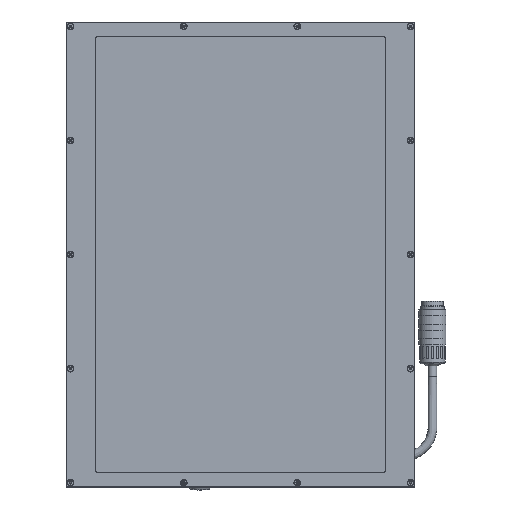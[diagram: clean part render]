
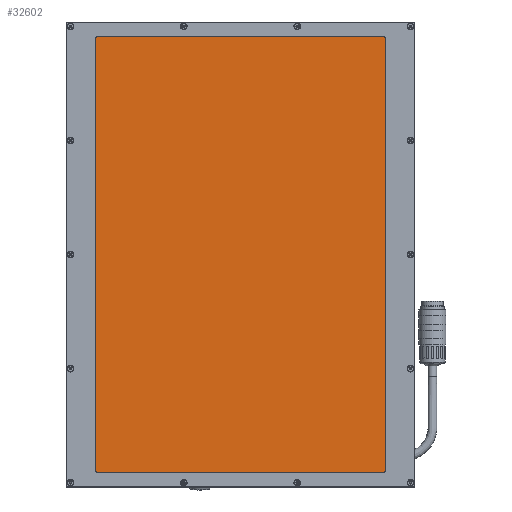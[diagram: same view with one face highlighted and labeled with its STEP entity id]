
A CAD part, top view. The second image highlights one B-rep face of the part: STEP entity #32602.
In plain terms, the highlighted planar face has unit normal (0, 0, 1).
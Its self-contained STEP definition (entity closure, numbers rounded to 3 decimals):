
#2541=LINE('',#55214,#4274);
#2547=LINE('',#55228,#4280);
#2549=LINE('',#55232,#4282);
#2553=LINE('',#55241,#4286);
#4274=VECTOR('',#40906,1000.);
#4280=VECTOR('',#40914,1000.);
#4282=VECTOR('',#40918,1000.);
#4286=VECTOR('',#40924,1000.);
#11260=ORIENTED_EDGE('',*,*,#14446,.T.);
#11261=ORIENTED_EDGE('',*,*,#14456,.T.);
#11262=ORIENTED_EDGE('',*,*,#14448,.T.);
#11263=ORIENTED_EDGE('',*,*,#14457,.T.);
#11264=ORIENTED_EDGE('',*,*,#14452,.T.);
#11265=ORIENTED_EDGE('',*,*,#14458,.T.);
#11266=ORIENTED_EDGE('',*,*,#14440,.T.);
#11267=ORIENTED_EDGE('',*,*,#14459,.T.);
#14440=EDGE_CURVE('',#16681,#16682,#2541,.T.);
#14446=EDGE_CURVE('',#16688,#16687,#2547,.T.);
#14448=EDGE_CURVE('',#16689,#16690,#2549,.T.);
#14452=EDGE_CURVE('',#16693,#16694,#2553,.T.);
#14456=EDGE_CURVE('',#16687,#16689,#17529,.T.);
#14457=EDGE_CURVE('',#16690,#16693,#17530,.T.);
#14458=EDGE_CURVE('',#16694,#16681,#17531,.T.);
#14459=EDGE_CURVE('',#16682,#16688,#17532,.T.);
#16681=VERTEX_POINT('',#55215);
#16682=VERTEX_POINT('',#55216);
#16687=VERTEX_POINT('',#55227);
#16688=VERTEX_POINT('',#55229);
#16689=VERTEX_POINT('',#55233);
#16690=VERTEX_POINT('',#55234);
#16693=VERTEX_POINT('',#55242);
#16694=VERTEX_POINT('',#55243);
#17529=CIRCLE('',#34814,2.);
#17530=CIRCLE('',#34815,2.);
#17531=CIRCLE('',#34816,2.);
#17532=CIRCLE('',#34817,2.);
#19277=EDGE_LOOP('',(#11260,#11261,#11262,#11263,#11264,#11265,#11266,#11267));
#21078=FACE_BOUND('',#19277,.T.);
#21742=PLANE('',#34813);
#32602=ADVANCED_FACE('',(#21078),#21742,.T.);
#34813=AXIS2_PLACEMENT_3D('',#55249,#40928,#40929);
#34814=AXIS2_PLACEMENT_3D('',#55250,#40930,#40931);
#34815=AXIS2_PLACEMENT_3D('',#55251,#40932,#40933);
#34816=AXIS2_PLACEMENT_3D('',#55252,#40934,#40935);
#34817=AXIS2_PLACEMENT_3D('',#55253,#40936,#40937);
#40906=DIRECTION('',(0.,-1.,0.));
#40914=DIRECTION('',(1.,0.,0.));
#40918=DIRECTION('',(0.,1.,0.));
#40924=DIRECTION('',(-1.,0.,0.));
#40928=DIRECTION('',(0.,0.,1.));
#40929=DIRECTION('',(1.,0.,0.));
#40930=DIRECTION('',(0.,0.,1.));
#40931=DIRECTION('',(1.,0.,0.));
#40932=DIRECTION('',(0.,0.,1.));
#40933=DIRECTION('',(1.,0.,0.));
#40934=DIRECTION('',(0.,0.,1.));
#40935=DIRECTION('',(1.,0.,0.));
#40936=DIRECTION('',(0.,0.,1.));
#40937=DIRECTION('',(1.,0.,0.));
#55214=CARTESIAN_POINT('',(-103.8,153.8,11.05));
#55215=CARTESIAN_POINT('',(-103.8,151.8,11.05));
#55216=CARTESIAN_POINT('',(-103.8,-151.8,11.05));
#55227=CARTESIAN_POINT('',(101.8,-153.8,11.05));
#55228=CARTESIAN_POINT('',(-103.8,-153.8,11.05));
#55229=CARTESIAN_POINT('',(-101.8,-153.8,11.05));
#55232=CARTESIAN_POINT('',(103.8,-153.8,11.05));
#55233=CARTESIAN_POINT('',(103.8,-151.8,11.05));
#55234=CARTESIAN_POINT('',(103.8,151.8,11.05));
#55241=CARTESIAN_POINT('',(103.8,153.8,11.05));
#55242=CARTESIAN_POINT('',(101.8,153.8,11.05));
#55243=CARTESIAN_POINT('',(-101.8,153.8,11.05));
#55249=CARTESIAN_POINT('',(0.,0.,
11.05));
#55250=CARTESIAN_POINT('',(101.8,-151.8,11.05));
#55251=CARTESIAN_POINT('',(101.8,151.8,11.05));
#55252=CARTESIAN_POINT('',(-101.8,151.8,11.05));
#55253=CARTESIAN_POINT('',(-101.8,-151.8,11.05));
